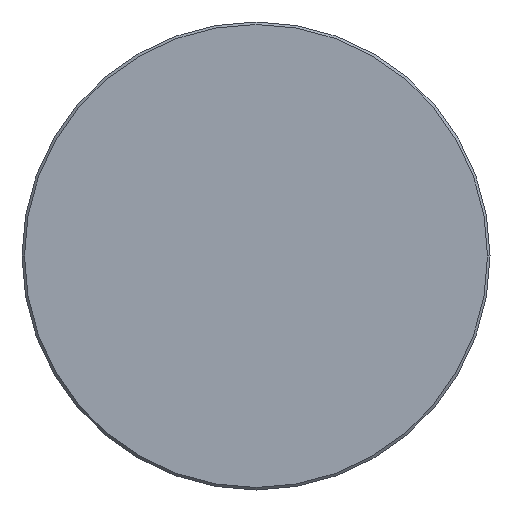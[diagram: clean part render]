
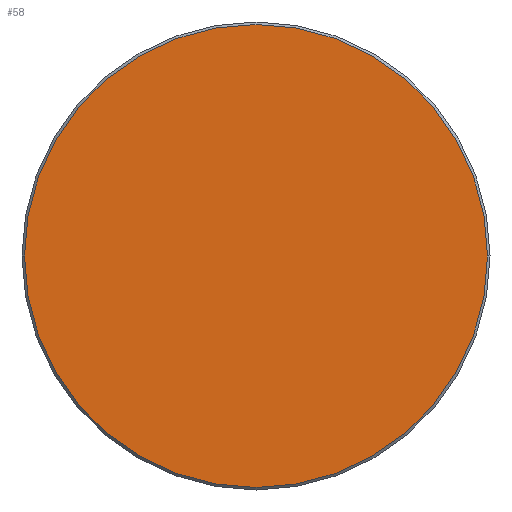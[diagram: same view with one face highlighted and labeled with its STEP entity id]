
A CAD part, left-side view. The second image highlights one B-rep face of the part: STEP entity #58.
In plain terms, the highlighted planar face has unit normal (-1, 0, 0).
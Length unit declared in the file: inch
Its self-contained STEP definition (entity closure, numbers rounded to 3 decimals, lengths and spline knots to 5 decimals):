
#4 = VERTEX_POINT ( 'NONE', #316 ) ;
#18 = EDGE_CURVE ( 'NONE', #4, #363, #205, .T. ) ;
#58 = ADVANCED_FACE ( 'NONE', ( #68 ), #292, .T. ) ;
#68 = FACE_OUTER_BOUND ( 'NONE', #241, .T. ) ;
#116 = CARTESIAN_POINT ( 'NONE',  ( 0., 0., 0. ) ) ;
#120 = ORIENTED_EDGE ( 'NONE', *, *, #263, .T. ) ;
#130 = CARTESIAN_POINT ( 'NONE',  ( 0., 0., 0. ) ) ;
#157 = CIRCLE ( 'NONE', #163, 0.371 ) ;
#163 = AXIS2_PLACEMENT_3D ( 'NONE', #130, #191, #243 ) ;
#185 = ORIENTED_EDGE ( 'NONE', *, *, #18, .T. ) ;
#191 = DIRECTION ( 'NONE',  ( -1., 0., 0. ) ) ;
#205 = CIRCLE ( 'NONE', #287, 0.371 ) ;
#209 = CARTESIAN_POINT ( 'NONE',  ( 0., 0., 0. ) ) ;
#229 = AXIS2_PLACEMENT_3D ( 'NONE', #116, #319, #344 ) ;
#233 = DIRECTION ( 'NONE',  ( 0., -1., 0. ) ) ;
#241 = EDGE_LOOP ( 'NONE', ( #120, #185 ) ) ;
#243 = DIRECTION ( 'NONE',  ( 0., -1., 0. ) ) ;
#246 = CARTESIAN_POINT ( 'NONE',  ( 0., 0.371, 0. ) ) ;
#263 = EDGE_CURVE ( 'NONE', #363, #4, #157, .T. ) ;
#287 = AXIS2_PLACEMENT_3D ( 'NONE', #209, #296, #233 ) ;
#292 = PLANE ( 'NONE',  #229 ) ;
#296 = DIRECTION ( 'NONE',  ( -1., 0., 0. ) ) ;
#316 = CARTESIAN_POINT ( 'NONE',  ( 0., -0.371, 0. ) ) ;
#319 = DIRECTION ( 'NONE',  ( -1., 0., 0. ) ) ;
#344 = DIRECTION ( 'NONE',  ( 0., -1., 0. ) ) ;
#363 = VERTEX_POINT ( 'NONE', #246 ) ;
